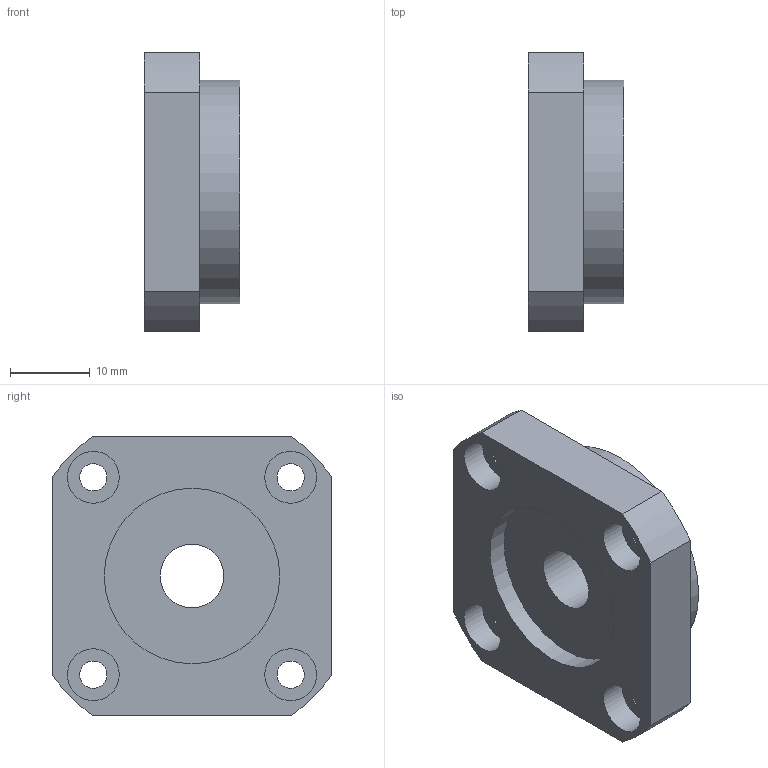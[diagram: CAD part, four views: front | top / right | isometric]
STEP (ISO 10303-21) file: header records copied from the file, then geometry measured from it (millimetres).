
FILE_DESCRIPTION((''),'2;1');
FILE_NAME('D:\製品 (図面)\カタログ用3D\ネジ関連\STEP形式\FF\FF10.stp','2010-06-01T16:41:31',('Tsuchiya'),(''),'Autodesk Inventor 10','Autodesk Inventor 10','');
FILE_SCHEMA(('AUTOMOTIVE_DESIGN { 1 0 10303 214 1 1 1 1 }'));
Length unit declared in the file: millimetre
Products named in the file (1): FF10
Bounding box: 12 x 35 x 35 mm (x, y, z)
Volume: 8516.4 mm3; surface area: 4475.3 mm2
Topology: 1 solids, 1 shells, 29 faces, 60 edges, 40 vertices
Faces by surface type: cylinder 16, plane 13
Full cylindrical faces by diameter (mm): 3.4 x4, 6.5 x4, 8 x1, 22 x2, 28 x1
Entity records: 769 total; most frequent: DIRECTION 140, CARTESIAN_POINT 118, ORIENTED_EDGE 96, AXIS2_PLACEMENT_3D 62, EDGE_LOOP 58, EDGE_CURVE 48, VERTEX_POINT 40, CIRCLE 32
